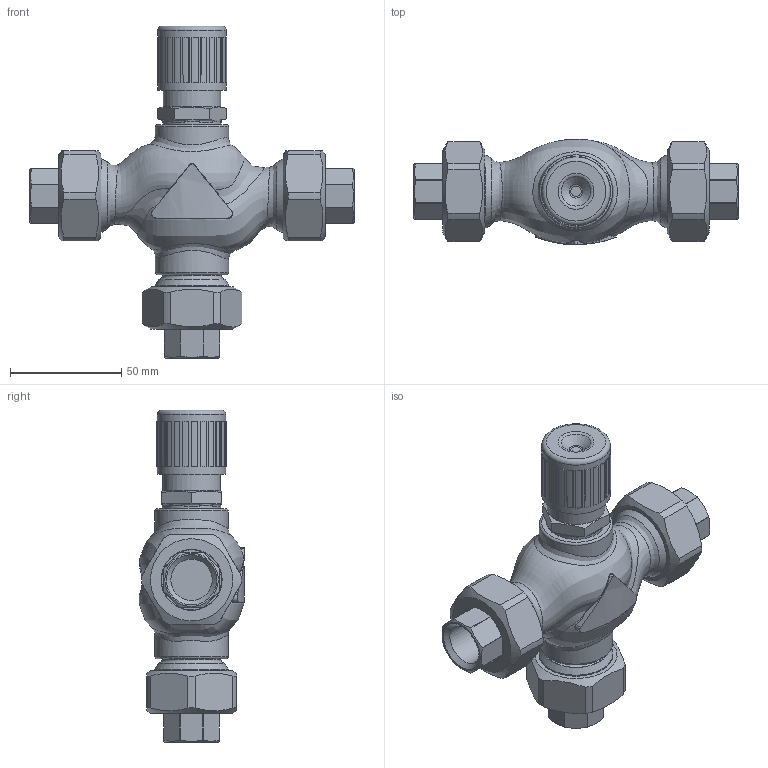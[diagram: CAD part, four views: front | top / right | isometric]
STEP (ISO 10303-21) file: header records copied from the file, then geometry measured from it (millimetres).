
FILE_DESCRIPTION(/* description */ (''),/* implementation_level */ '2;1');
FILE_NAME(/* name */ 'rv111r_dn15_3_T.stp',/* time_stamp */ '2012-02-21T10:53:34+01:00',/* author */ ('KLIMES'),/* organization */ ('LDM'),/* preprocessor_version */ 'ST-DEVELOPER v11',/* originating_system */ 'SIEMENS PLM Software NX 7.0',/* authorisation */ '');
FILE_SCHEMA (('CONFIG_CONTROL_DESIGN'));
Length unit declared in the file: millimetre
Products named in the file (1): klim56BEqbf0
Bounding box: 146 x 47.4 x 149.45 mm (x, y, z)
Volume: 237329.4 mm3; surface area: 59688.5 mm2
Topology: 11 solids, 11 shells, 367 faces, 876 edges, 572 vertices
Faces by surface type: plane 212, cylinder 58, cone 55, bspline 27, torus 15
Full cylindrical faces by diameter (mm): 8 x1, 18.631 x3, 21 x3, 21.5 x3, 23.4 x1, 24.117 x1, 26 x1, 26.5 x2, 27 x3, 27.5 x3, 30 x6, 30.291 x3, 30.8 x1, 33 x2, 33.249 x3
Entity records: 15933 total; most frequent: CARTESIAN_POINT 7928, DIRECTION 1632, ORIENTED_EDGE 1518, EDGE_CURVE 759, AXIS2_PLACEMENT_3D 660, VERTEX_POINT 534, EDGE_LOOP 505, ADVANCED_FACE 367
